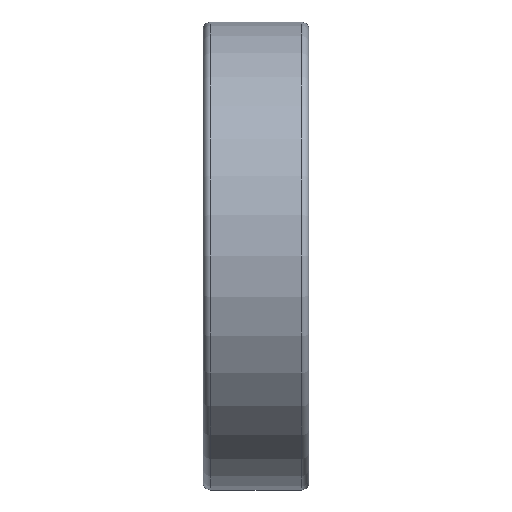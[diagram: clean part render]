
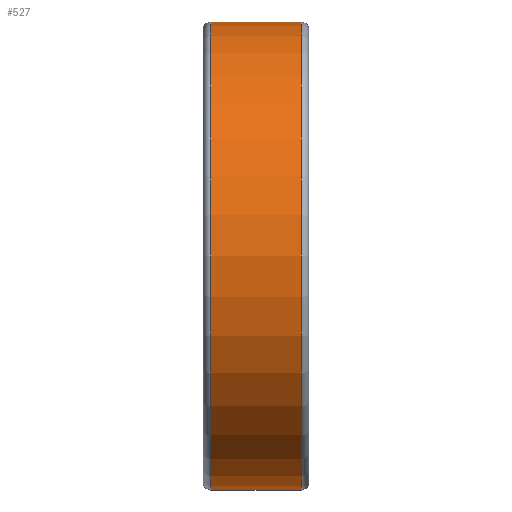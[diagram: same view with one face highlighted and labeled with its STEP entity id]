
A CAD part, left-side view. The second image highlights one B-rep face of the part: STEP entity #527.
In plain terms, the highlighted cylindrical face has radius 31 mm (diameter 62 mm), a partial arc.
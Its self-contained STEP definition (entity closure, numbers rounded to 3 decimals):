
#180 = CARTESIAN_POINT ( 'NONE',  ( 0., -1., 31. ) ) ;
#273 = VERTEX_POINT ( 'NONE', #180 ) ;
#281 = EDGE_CURVE ( 'NONE', #1544, #1764, #2154, .T. ) ;
#425 = DIRECTION ( 'NONE',  ( 0., 1., 0. ) ) ;
#437 = FACE_OUTER_BOUND ( 'NONE', #856, .T. ) ;
#506 = ORIENTED_EDGE ( 'NONE', *, *, #2016, .F. ) ;
#527 = ADVANCED_FACE ( 'NONE', ( #437 ), #1980, .T. ) ;
#755 = ORIENTED_EDGE ( 'NONE', *, *, #2445, .T. ) ;
#800 = CIRCLE ( 'NONE', #3058, 31. ) ;
#856 = EDGE_LOOP ( 'NONE', ( #1460, #3072, #755, #506 ) ) ;
#959 = VECTOR ( 'NONE', #3016, 1000. ) ;
#1165 = EDGE_CURVE ( 'NONE', #1544, #1788, #800, .T. ) ;
#1199 = DIRECTION ( 'NONE',  ( 0., 1., 0. ) ) ;
#1313 = AXIS2_PLACEMENT_3D ( 'NONE', #1353, #2148, #3151 ) ;
#1353 = CARTESIAN_POINT ( 'NONE',  ( 0., -1., 0. ) ) ;
#1460 = ORIENTED_EDGE ( 'NONE', *, *, #281, .F. ) ;
#1473 = DIRECTION ( 'NONE',  ( 0., 0., 1. ) ) ;
#1524 = CIRCLE ( 'NONE', #1313, 31. ) ;
#1540 = CARTESIAN_POINT ( 'NONE',  ( 0., -13., -31. ) ) ;
#1544 = VERTEX_POINT ( 'NONE', #1540 ) ;
#1594 = VECTOR ( 'NONE', #425, 1000. ) ;
#1615 = CARTESIAN_POINT ( 'NONE',  ( 0., -13., 31. ) ) ;
#1764 = VERTEX_POINT ( 'NONE', #1840 ) ;
#1788 = VERTEX_POINT ( 'NONE', #1615 ) ;
#1840 = CARTESIAN_POINT ( 'NONE',  ( 0., -1., -31. ) ) ;
#1935 = DIRECTION ( 'NONE',  ( 0., 1., 0. ) ) ;
#1980 = CYLINDRICAL_SURFACE ( 'NONE', #2078, 31. ) ;
#2016 = EDGE_CURVE ( 'NONE', #1764, #273, #1524, .T. ) ;
#2078 = AXIS2_PLACEMENT_3D ( 'NONE', #2972, #1199, #1473 ) ;
#2148 = DIRECTION ( 'NONE',  ( 0., 1., 0. ) ) ;
#2154 = LINE ( 'NONE', #2719, #1594 ) ;
#2405 = DIRECTION ( 'NONE',  ( 0., 0., 1. ) ) ;
#2445 = EDGE_CURVE ( 'NONE', #1788, #273, #2753, .T. ) ;
#2719 = CARTESIAN_POINT ( 'NONE',  ( 0., -7., -31. ) ) ;
#2753 = LINE ( 'NONE', #2998, #959 ) ;
#2961 = CARTESIAN_POINT ( 'NONE',  ( 0., -13., 0. ) ) ;
#2972 = CARTESIAN_POINT ( 'NONE',  ( 0., -7., 0. ) ) ;
#2998 = CARTESIAN_POINT ( 'NONE',  ( 0., -7., 31. ) ) ;
#3016 = DIRECTION ( 'NONE',  ( 0., 1., 0. ) ) ;
#3058 = AXIS2_PLACEMENT_3D ( 'NONE', #2961, #1935, #2405 ) ;
#3072 = ORIENTED_EDGE ( 'NONE', *, *, #1165, .T. ) ;
#3151 = DIRECTION ( 'NONE',  ( 0., 0., 1. ) ) ;
